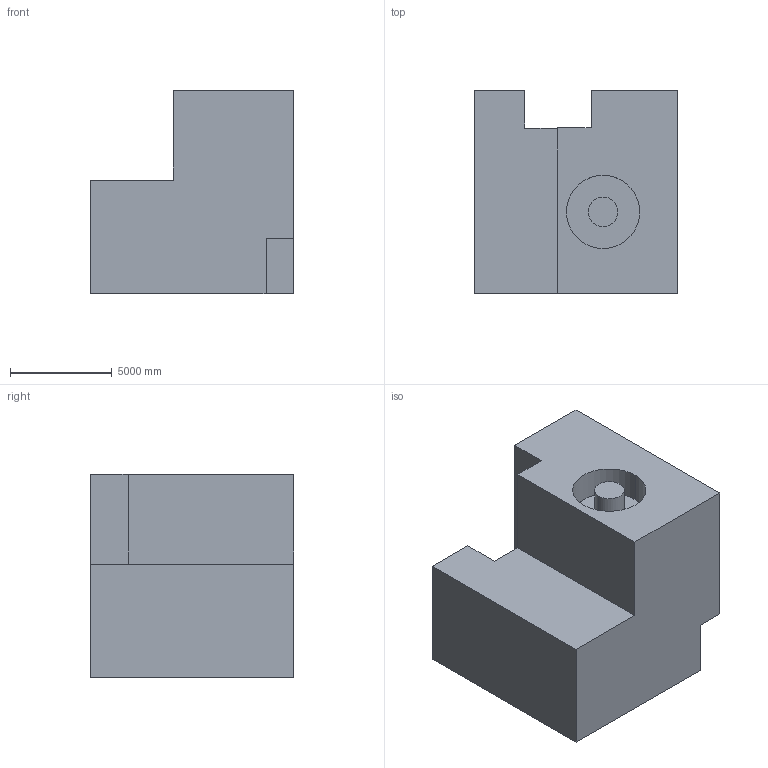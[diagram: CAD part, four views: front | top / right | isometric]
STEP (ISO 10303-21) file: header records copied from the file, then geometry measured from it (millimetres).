
FILE_DESCRIPTION (( 'STEP AP203' ), '1' );
FILE_NAME ('1353.STEP', '2022-08-18T14:00:16', ( 'user' ), ( '' ), 'SwSTEP 2.0', 'SolidWorks 2021', '' );
FILE_SCHEMA (( 'CONFIG_CONTROL_DESIGN' ));
Length unit declared in the file: centimetre
Products named in the file (1): 1353
Bounding box: 10000 x 10000 x 10000 mm (x, y, z)
Volume: 727032552027.9 mm3; surface area: 595937798.5 mm2
Topology: 1 solids, 1 shells, 21 faces, 51 edges, 34 vertices
Faces by surface type: plane 17, cylinder 4
Entity records: 690 total; most frequent: CARTESIAN_POINT 107, DIRECTION 103, ORIENTED_EDGE 102, EDGE_CURVE 51, VECTOR 43, LINE 43, VERTEX_POINT 34, AXIS2_PLACEMENT_3D 30
